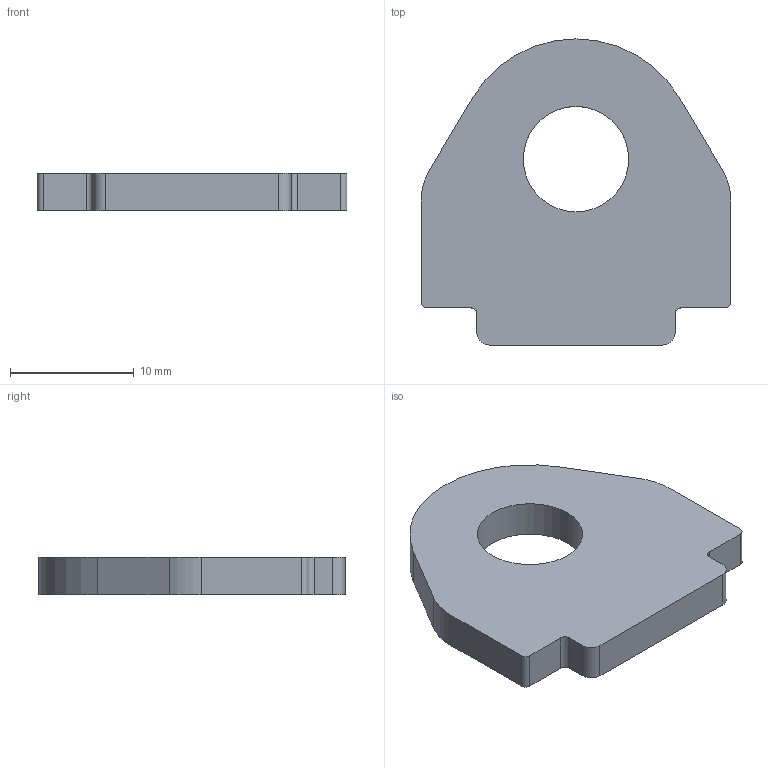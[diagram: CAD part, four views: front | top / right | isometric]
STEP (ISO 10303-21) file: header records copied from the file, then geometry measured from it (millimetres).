
FILE_DESCRIPTION((''),'2;1');
FILE_NAME('288094','2022-12-13T13:59:19',('vmorco'),(''),'CREO PARAMETRIC BY PTC INC, 2020454','CREO PARAMETRIC BY PTC INC, 2020454','');
FILE_SCHEMA(('AUTOMOTIVE_DESIGN { 1 0 10303 214 1 1 1 1 }'));
Length unit declared in the file: millimetre
Products named in the file (1): 288094
Bounding box: 25 x 24.7 x 3 mm (x, y, z)
Volume: 1324.4 mm3; surface area: 1219.3 mm2
Topology: 1 solids, 1 shells, 22 faces, 60 edges, 40 vertices
Faces by surface type: plane 11, cylinder 11
Entity records: 781 total; most frequent: DIRECTION 126, CARTESIAN_POINT 124, ORIENTED_EDGE 120, EDGE_CURVE 60, AXIS2_PLACEMENT_3D 44, VERTEX_POINT 40, VECTOR 38, LINE 38
